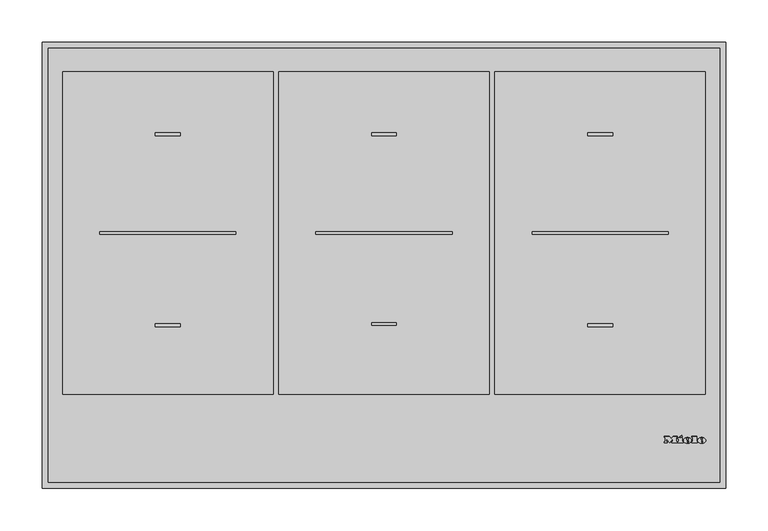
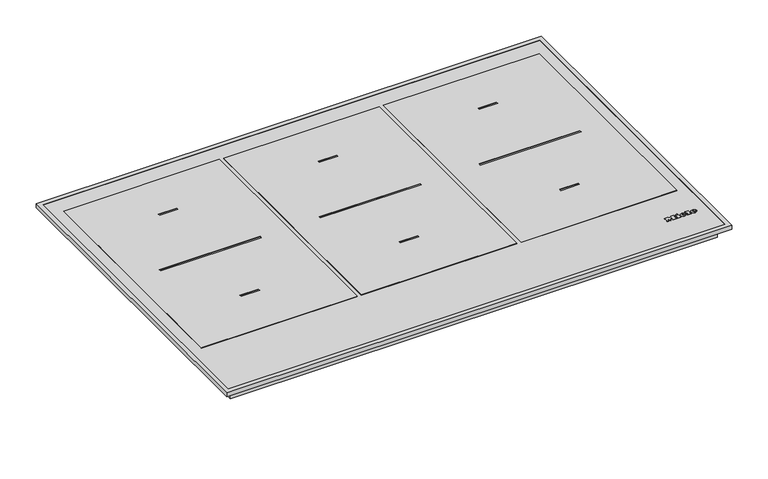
"""IFC4 building model written with IfcOpenShell, lengths in millimetres: proxy geometry, 11276510_BR_KM7575FR : 26757500_BR_11276510_KM7575FR."""

from ifc_helpers import new_model, si_unit, point, frame, frame_2d, origin, place, context, project, spatial, polyline, circle_curve, ellipse_curve, trimmed, segment, composite_curve, outline, extrude, faceted_brep, source, transform, mapped, element, save
from ifc_brep_helpers import plane_surface, cylinder_surface, revolved_surface, extruded_surface, advanced_brep


def specialty_equipment_3f7b766c(model_context):
    return source(origin(), model_context, "Body", "SolidModel", [
        advanced_brep(
        [(374.06, 55.3948833, 6.4802537), (374.06, 56.2028828, 6.4811551), (379.412, 56.2028828, 6.4811551), (370.1, 56.2028828, 6.4811551), (372.3, 53.4988845, 6.4781386), (379.276, 55.3948833, 6.4802537), (376.86, 55.3948833, 6.4802537), (374.956, 54.4988838, 6.4792542), (374.06, 57.2268821, 6.4822974), (374.06, 58.0988816, 6.4832701), (375.428, 58.0988816, 6.4832701), (375.428, 57.2268821, 6.4822974), (374.06, 55.3959988, 5.4802543), (374.956, 54.4999994, 5.4792548), (376.86, 55.3959988, 5.4802543), (379.276, 55.3959988, 5.4802543), (372.3, 53.5, 5.4781393), (370.1, 56.2039983, 5.4811557), (379.412, 56.2039983, 5.4811557), (374.06, 56.2039983, 5.4811557), (374.06, 57.2279977, 5.482298), (375.428, 57.2279977, 5.482298), (375.428, 58.0999971, 5.4832707), (374.06, 58.0999971, 5.4832707)],
        [
            (0, 1),
            (1, 2),
            (2, 3, ellipse_curve(frame((374.756, 56.2028828, 6.4811551), z_axis=(0.0, -0.0011155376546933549, 0.9999993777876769), x_axis=(-1.0, 0.0, 0.0)), 4.656, 3.848)),
            (3, 4, circle_curve(frame((373.1960436, 56.4748826, 6.4814585), z_axis=(0.0, -0.0011155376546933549, 0.9999993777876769), x_axis=(0.0, -0.9999993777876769, -0.0011155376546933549)), 3.1079688)),
            (4, 5, circle_curve(frame((374.6627936, 58.5868813, 6.4838145), z_axis=(0.0, -0.0011155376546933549, 0.9999993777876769), x_axis=(0.0, -0.9999993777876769, -0.0011155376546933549)), 5.6098607)),
            (5, 6),
            (6, 7, circle_curve(frame((375.3470588, 56.1388828, 6.4810837), z_axis=(0.0, 0.0011155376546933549, -0.9999993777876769), x_axis=(0.0, -0.9999993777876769, -0.0011155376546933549)), 1.6859795)),
            (7, 0, circle_curve(frame((374.956, 55.3948833, 6.4802537), z_axis=(0.0, 0.0011155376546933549, -0.9999993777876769), x_axis=(0.0, -0.9999993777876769, -0.0011155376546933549)), 0.896)),
            (8, 9),
            (9, 10, circle_curve(frame((374.744, 58.0988816, 6.4832701), z_axis=(0.0, 0.0011155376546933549, -0.9999993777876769), x_axis=(0.0, -0.9999993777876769, -0.0011155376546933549)), 0.684)),
            (10, 11),
            (11, 8),
            (12, 13, circle_curve(frame((374.956, 55.3959988, 5.4802543), z_axis=(0.0, -0.0011155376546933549, 0.9999993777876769), x_axis=(0.0, -0.9999993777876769, -0.0011155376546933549)), 0.896)),
            (13, 14, circle_curve(frame((375.3470588, 56.1399984, 5.4810843), z_axis=(0.0, -0.0011155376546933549, 0.9999993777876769), x_axis=(0.0, -0.9999993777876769, -0.0011155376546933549)), 1.6859795)),
            (14, 15),
            (15, 16, circle_curve(frame((374.6627936, 58.5879968, 5.4838151), z_axis=(0.0, 0.0011155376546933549, -0.9999993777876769), x_axis=(0.0, -0.9999993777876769, -0.0011155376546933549)), 5.6098607)),
            (16, 17, circle_curve(frame((373.1960436, 56.4759981, 5.4814591), z_axis=(0.0, 0.0011155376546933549, -0.9999993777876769), x_axis=(0.0, -0.9999993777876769, -0.0011155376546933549)), 3.1079688)),
            (17, 18, ellipse_curve(frame((374.756, 56.2039983, 5.4811557), z_axis=(0.0, 0.0011155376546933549, -0.9999993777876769), x_axis=(-1.0, 0.0, 0.0)), 4.656, 3.848)),
            (18, 19),
            (19, 12),
            (20, 21),
            (21, 22),
            (22, 23, circle_curve(frame((374.744, 58.0999971, 5.4832707), z_axis=(0.0, -0.0011155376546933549, 0.9999993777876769), x_axis=(0.0, -0.9999993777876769, -0.0011155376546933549)), 0.684)),
            (23, 20),
            (0, 12),
            (19, 1),
            (18, 2),
            (5, 15),
            (14, 6),
            (17, 3),
            (13, 7),
            (16, 4),
            (8, 20),
            (23, 9),
            (22, 10),
            (21, 11),
        ],
        [
            plane_surface(frame((374.06, 56.2028828, 6.4811551), z_axis=(0.0, -0.0011155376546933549, 0.9999993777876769), x_axis=(0.0, 0.9999993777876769, 0.0011155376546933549))),
            plane_surface(frame((374.06, 56.2039983, 5.4811557), z_axis=(0.0, 0.0011155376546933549, -0.9999993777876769), x_axis=(0.0, -0.9999993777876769, -0.0011155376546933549))),
            plane_surface(frame((374.06, 55.3948833, 6.4802537), z_axis=(1.0000000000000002, 0.0, 0.0), x_axis=(0.0, 0.001115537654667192, -0.999999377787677))),
            plane_surface(frame((374.06, 56.2028828, 6.4811551), z_axis=(0.0, -0.999999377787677, -0.001115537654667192), x_axis=(0.0, 0.001115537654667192, -0.999999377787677))),
            plane_surface(frame((379.276, 55.3948833, 6.4802537), z_axis=(0.0, 0.999999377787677, 0.001115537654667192), x_axis=(0.0, 0.001115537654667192, -0.999999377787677))),
            extruded_surface(trimmed(ellipse_curve(frame((374.756, 56.2051139, 4.4811563), z_axis=(0.0, -0.0011155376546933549, 0.9999993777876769), x_axis=(-1.0, 0.0, 0.0)), 4.656, 3.848), [point((379.412, 56.2051139, 4.4811563))], [point((370.1, 56.2051139, 4.4811563))], True, "CARTESIAN"), (0.0, -0.001115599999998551, 0.9999994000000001), 1.00000002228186),
            revolved_surface(polyline([(375.3470588, 54.454019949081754, 5.479203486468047), (375.3470588, 54.45290441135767, 6.4792029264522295)]), (375.3470588, 56.1399984, 5.4810843), (0.0, 0.0011155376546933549, -0.9999993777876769)),
            revolved_surface(polyline([(374.956, 54.49999935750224, 5.479254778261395), (374.956, 54.49888381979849, 6.479254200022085)]), (374.956, 55.3959988, 5.4802543), (0.0, 0.0011155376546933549, -0.9999993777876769)),
            cylinder_surface(frame((373.1960436, 56.4759981, 5.4814591), z_axis=(0.0, -0.0011155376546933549, 0.9999993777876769), x_axis=(0.0, -0.9999993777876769, -0.0011155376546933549)), 3.1079688),
            cylinder_surface(frame((374.6627936, 58.5879968, 5.4838151), z_axis=(0.0, -0.0011155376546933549, 0.9999993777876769), x_axis=(0.0, -0.9999993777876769, -0.0011155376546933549)), 5.6098607),
            plane_surface(frame((374.06, 57.2268821, 6.4822974), z_axis=(1.0000000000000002, 0.0, 0.0), x_axis=(0.0, 0.001115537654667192, -0.999999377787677))),
            revolved_surface(polyline([(374.744, 57.415997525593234, 5.48250767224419), (374.744, 57.41488198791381, 6.482507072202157)]), (374.744, 58.0999971, 5.4832707), (0.0, 0.0011155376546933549, -0.9999993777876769)),
            plane_surface(frame((375.428, 58.0988816, 6.4832701), z_axis=(-1.0000000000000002, 0.0, 0.0), x_axis=(0.0, 0.001115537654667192, -0.999999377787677))),
            plane_surface(frame((375.428, 57.2268821, 6.4822974), z_axis=(0.0, 0.999999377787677, 0.001115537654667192), x_axis=(0.0, 0.001115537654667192, -0.999999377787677))),
        ],
        [
            (0, [[1, 2, 3, 4, 5, 6, 7, 8], [9, 10, 11, 12]]),
            (1, [[13, 14, 15, 16, 17, 18, 19, 20], [21, 22, 23, 24]]),
            (2, [[-1, 25, -20, 26]]),
            (3, [[-2, -26, -19, 27]]),
            (4, [[-6, 28, -15, 29]]),
            (5, [[-3, -27, -18, 30]]),
            (6, [[-7, -29, -14, 31]]),
            (7, [[-8, -31, -13, -25]]),
            (8, [[-4, -30, -17, 32]]),
            (9, [[-5, -32, -16, -28]]),
            (10, [[-9, 33, -24, 34]]),
            (11, [[-10, -34, -23, 35]]),
            (12, [[-11, -35, -22, 36]]),
            (13, [[-12, -36, -21, -33]]),
        ],
    ),
        advanced_brep(
        [(357.364, 55.3948833, 6.4802537), (357.364, 56.2028828, 6.4811551), (362.716, 56.2028828, 6.4811551), (353.404, 56.2028828, 6.4811551), (355.604, 53.4988845, 6.4781386), (362.58, 55.3948833, 6.4802537), (360.164, 55.3948833, 6.4802537), (358.26, 54.4988838, 6.4792542), (357.364, 57.2268821, 6.4822974), (357.364, 58.0988816, 6.4832701), (358.732, 58.0988816, 6.4832701), (358.732, 57.2268821, 6.4822974), (357.364, 55.3959988, 5.4802543), (358.26, 54.4999994, 5.4792548), (360.164, 55.3959988, 5.4802543), (362.58, 55.3959988, 5.4802543), (355.604, 53.5, 5.4781393), (353.404, 56.2039983, 5.4811557), (362.716, 56.2039983, 5.4811557), (357.364, 56.2039983, 5.4811557), (357.364, 57.2279977, 5.482298), (358.732, 57.2279977, 5.482298), (358.732, 58.0999971, 5.4832707), (357.364, 58.0999971, 5.4832707)],
        [
            (0, 1),
            (1, 2),
            (2, 3, ellipse_curve(frame((358.06, 56.2028828, 6.4811551), z_axis=(0.0, -0.0011155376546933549, 0.9999993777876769), x_axis=(-1.0, 0.0, 0.0)), 4.656, 3.848)),
            (3, 4, circle_curve(frame((356.5000436, 56.4748826, 6.4814585), z_axis=(0.0, -0.0011155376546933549, 0.9999993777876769), x_axis=(0.0, -0.9999993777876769, -0.0011155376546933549)), 3.1079688)),
            (4, 5, circle_curve(frame((357.9667936, 58.5868813, 6.4838145), z_axis=(0.0, -0.0011155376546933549, 0.9999993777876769), x_axis=(0.0, -0.9999993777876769, -0.0011155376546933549)), 5.6098607)),
            (5, 6),
            (6, 7, circle_curve(frame((358.6510588, 56.1388828, 6.4810837), z_axis=(0.0, 0.0011155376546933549, -0.9999993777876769), x_axis=(0.0, -0.9999993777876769, -0.0011155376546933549)), 1.6859795)),
            (7, 0, circle_curve(frame((358.26, 55.3948833, 6.4802537), z_axis=(0.0, 0.0011155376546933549, -0.9999993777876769), x_axis=(0.0, -0.9999993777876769, -0.0011155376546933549)), 0.896)),
            (8, 9),
            (9, 10, circle_curve(frame((358.048, 58.0988816, 6.4832701), z_axis=(0.0, 0.0011155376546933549, -0.9999993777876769), x_axis=(0.0, -0.9999993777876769, -0.0011155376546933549)), 0.684)),
            (10, 11),
            (11, 8),
            (12, 13, circle_curve(frame((358.26, 55.3959988, 5.4802543), z_axis=(0.0, -0.0011155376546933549, 0.9999993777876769), x_axis=(0.0, -0.9999993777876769, -0.0011155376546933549)), 0.896)),
            (13, 14, circle_curve(frame((358.6510588, 56.1399984, 5.4810843), z_axis=(0.0, -0.0011155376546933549, 0.9999993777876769), x_axis=(0.0, -0.9999993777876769, -0.0011155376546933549)), 1.6859795)),
            (14, 15),
            (15, 16, circle_curve(frame((357.9667936, 58.5879968, 5.4838151), z_axis=(0.0, 0.0011155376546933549, -0.9999993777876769), x_axis=(0.0, -0.9999993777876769, -0.0011155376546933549)), 5.6098607)),
            (16, 17, circle_curve(frame((356.5000436, 56.4759981, 5.4814591), z_axis=(0.0, 0.0011155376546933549, -0.9999993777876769), x_axis=(0.0, -0.9999993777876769, -0.0011155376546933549)), 3.1079688)),
            (17, 18, ellipse_curve(frame((358.06, 56.2039983, 5.4811557), z_axis=(0.0, 0.0011155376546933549, -0.9999993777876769), x_axis=(-1.0, 0.0, 0.0)), 4.656, 3.848)),
            (18, 19),
            (19, 12),
            (20, 21),
            (21, 22),
            (22, 23, circle_curve(frame((358.048, 58.0999971, 5.4832707), z_axis=(0.0, -0.0011155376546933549, 0.9999993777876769), x_axis=(0.0, -0.9999993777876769, -0.0011155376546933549)), 0.684)),
            (23, 20),
            (0, 12),
            (19, 1),
            (18, 2),
            (5, 15),
            (14, 6),
            (17, 3),
            (13, 7),
            (16, 4),
            (8, 20),
            (23, 9),
            (22, 10),
            (21, 11),
        ],
        [
            plane_surface(frame((357.364, 56.2028828, 6.4811551), z_axis=(0.0, -0.0011155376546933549, 0.9999993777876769), x_axis=(0.0, 0.9999993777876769, 0.0011155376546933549))),
            plane_surface(frame((357.364, 56.2039983, 5.4811557), z_axis=(0.0, 0.0011155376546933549, -0.9999993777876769), x_axis=(0.0, -0.9999993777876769, -0.0011155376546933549))),
            plane_surface(frame((357.364, 55.3948833, 6.4802537), z_axis=(1.0000000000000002, 0.0, 0.0), x_axis=(0.0, 0.001115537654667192, -0.999999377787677))),
            plane_surface(frame((357.364, 56.2028828, 6.4811551), z_axis=(0.0, -0.999999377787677, -0.001115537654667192), x_axis=(0.0, 0.001115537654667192, -0.999999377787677))),
            plane_surface(frame((362.58, 55.3948833, 6.4802537), z_axis=(0.0, 0.999999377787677, 0.001115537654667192), x_axis=(0.0, 0.001115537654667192, -0.999999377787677))),
            extruded_surface(trimmed(ellipse_curve(frame((358.06, 56.2051139, 4.4811563), z_axis=(0.0, -0.0011155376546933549, 0.9999993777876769), x_axis=(-1.0, 0.0, 0.0)), 4.656, 3.848), [point((362.716, 56.2051139, 4.4811563))], [point((353.404, 56.2051139, 4.4811563))], True, "CARTESIAN"), (0.0, -0.001115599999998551, 0.9999994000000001), 1.00000002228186),
            revolved_surface(polyline([(358.6510588, 54.454019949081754, 5.479203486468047), (358.6510588, 54.45290441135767, 6.4792029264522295)]), (358.6510588, 56.1399984, 5.4810843), (0.0, 0.0011155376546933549, -0.9999993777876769)),
            revolved_surface(polyline([(358.26, 54.49999935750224, 5.479254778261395), (358.26, 54.49888381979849, 6.479254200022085)]), (358.26, 55.3959988, 5.4802543), (0.0, 0.0011155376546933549, -0.9999993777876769)),
            cylinder_surface(frame((356.5000436, 56.4759981, 5.4814591), z_axis=(0.0, -0.0011155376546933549, 0.9999993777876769), x_axis=(0.0, -0.9999993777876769, -0.0011155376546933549)), 3.1079688),
            cylinder_surface(frame((357.9667936, 58.5879968, 5.4838151), z_axis=(0.0, -0.0011155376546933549, 0.9999993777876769), x_axis=(0.0, -0.9999993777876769, -0.0011155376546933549)), 5.6098607),
            plane_surface(frame((357.364, 57.2268821, 6.4822974), z_axis=(1.0000000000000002, 0.0, 0.0), x_axis=(0.0, 0.001115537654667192, -0.999999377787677))),
            revolved_surface(polyline([(358.048, 57.415997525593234, 5.48250767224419), (358.048, 57.41488198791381, 6.482507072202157)]), (358.048, 58.0999971, 5.4832707), (0.0, 0.0011155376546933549, -0.9999993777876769)),
            plane_surface(frame((358.732, 58.0988816, 6.4832701), z_axis=(-1.0000000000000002, 0.0, 0.0), x_axis=(0.0, 0.001115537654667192, -0.999999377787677))),
            plane_surface(frame((358.732, 57.2268821, 6.4822974), z_axis=(0.0, 0.999999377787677, 0.001115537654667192), x_axis=(0.0, 0.001115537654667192, -0.999999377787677))),
        ],
        [
            (0, [[1, 2, 3, 4, 5, 6, 7, 8], [9, 10, 11, 12]]),
            (1, [[13, 14, 15, 16, 17, 18, 19, 20], [21, 22, 23, 24]]),
            (2, [[-1, 25, -20, 26]]),
            (3, [[-2, -26, -19, 27]]),
            (4, [[-6, 28, -15, 29]]),
            (5, [[-3, -27, -18, 30]]),
            (6, [[-7, -29, -14, 31]]),
            (7, [[-8, -31, -13, -25]]),
            (8, [[-4, -30, -17, 32]]),
            (9, [[-5, -32, -16, -28]]),
            (10, [[-9, 33, -24, 34]]),
            (11, [[-10, -34, -23, 35]]),
            (12, [[-11, -35, -22, 36]]),
            (13, [[-12, -36, -21, -33]]),
        ],
    ),
        extrude(outline(polyline([(0.0, 0.0), (-0.0109086, -2.9993294), (-1.4390415, -2.9920868), (-1.4315307, 0.0), (0.0, 0.0)])), frame((348.62, 61.0279953, 5.486537), z_axis=(0.0, -0.001115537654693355, 0.999999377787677), x_axis=(-0.4247202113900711, 0.9053240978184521, 0.0010099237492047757)), (0.0, 0.0, 1.0), 1.0),
        extrude(outline(polyline([(-0.4933908, 2.4141097), (-2.7800844, -2.4601583), (-7.0459741, -0.4588767), (-7.4401145, -1.299018), (-8.6568709, -0.728194), (-5.9760369, 4.9862153), (-4.7592805, 4.4153913), (-5.1636142, 3.5535222), (-2.1941493, 2.1604399), (-1.7898157, 3.022309), (-0.4933908, 2.4141097)])), frame((348.62, 61.0279953, 5.486537), z_axis=(0.0, -0.001115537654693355, 0.999999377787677), x_axis=(-0.4247202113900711, 0.9053240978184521, 0.0010099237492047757)), (0.0, 0.0, 1.0), 1.0),
        extrude(outline(polyline([(0.0, 0.0), (0.0, -1.304), (-5.504, -1.304), (-5.504, 5.3519999), (-6.488, 5.3519999), (-6.488, 6.696), (0.0, 6.696), (0.0, 5.3519999), (-0.96, 5.3519999), (-0.96, 0.0), (0.0, 0.0)])), frame((363.164, 60.1959958, 5.4856089), z_axis=(0.0, -0.0011155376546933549, 0.9999993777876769), x_axis=(-1.0, 0.0, 0.0)), (0.0, 0.0, 1.0), 1.0),
        extrude(outline(polyline([(0.0, 0.0), (0.0, -1.304), (-5.576, -1.304), (-7.92, 1.696), (-10.256, -1.304), (-15.128, -1.304), (-15.128, 0.0), (-14.112, 0.0), (-14.112, 5.3519999), (-15.128, 5.3519999), (-15.128, 6.696), (-8.744, 6.696), (-8.744, 5.3519999), (-9.728, 5.3519999), (-9.728, 1.8807777), (-6.136, 6.696), (-2.56, 1.9488752), (-2.56, 5.3519999), (-3.52, 5.3519999), (-3.52, 6.696), (0.0, 6.696), (0.0, 5.3519999), (-0.968, 5.3519999), (-0.968, 0.0), (0.0, 0.0)])), frame((330.7, 60.1959958, 5.4856089), z_axis=(0.0, -0.0011155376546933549, 0.9999993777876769), x_axis=(-1.0, 0.0, 0.0)), (0.0, 0.0, 1.0), 1.0),
        extrude(outline(polyline([(400.0, 520.0), (400.0, 1.0), (-400.0, 1.0), (-400.0, 520.0), (400.0, 520.0)])), frame((0.0, 0.0, 2.0), z_axis=(0.0, 0.0, 1.0), x_axis=(1.0, 0.0, 0.0)), (0.0, 0.0, 1.0), 4.0),
        extrude(outline(polyline([(388.5, 511.5), (388.5, 14.5), (-388.5, 14.5), (-388.5, 511.5), (388.5, 511.5)])), frame((0.0, 0.0, -16.8), z_axis=(0.0, 0.0, 1.0), x_axis=(1.0, 0.0, 0.0)), (0.0, 0.0, 1.0), 18.8),
        extrude(outline(polyline([(-103.0, 475.3), (-103.0, 104.3), (-331.0, 104.3), (-331.0, 475.3), (-103.0, 475.3)])), frame((0.0, 0.0, -46.5), z_axis=(0.0, 0.0, 1.0), x_axis=(1.0, 0.0, 0.0)), (0.0, 0.0, 1.0), 29.7),
        extrude(outline(polyline([(-82.8, 341.7), (-104.2, 341.7), (-104.2, 425.1), (-82.8, 425.1), (-82.8, 475.3), (323.2, 475.3), (323.2, 104.3), (-82.8, 104.3), (-82.8, 341.7)])), frame((0.0, 0.0, -46.5), z_axis=(0.0, 0.0, 1.0), x_axis=(1.0, 0.0, 0.0)), (0.0, 0.0, 1.0), 29.7),
        faceted_brep([(396.0, 519.0, 7.0), (396.0, 519.0, 6.0), (396.0, 7.0, 6.0), (396.0, 7.0, 7.0), (403.0, 526.0, 0.0), (403.0, 526.0, 7.0), (403.0, 0.0, 7.0), (403.0, 0.0, 0.0), (402.0, 525.0, 6.0), (402.0, 525.0, 0.0), (402.0, 1.0, 0.0), (402.0, 1.0, 6.0), (-396.0, 7.0, 6.0), (-396.0, 7.0, 7.0), (-403.0, 0.0, 7.0), (-403.0, 0.0, 0.0), (-402.0, 1.0, 0.0), (-402.0, 1.0, 6.0), (-396.0, 519.0, 6.0), (-396.0, 519.0, 7.0), (-403.0, 526.0, 7.0), (-403.0, 526.0, 0.0), (-402.0, 525.0, 0.0), (-402.0, 525.0, 6.0)], [[[0, 1, 2, 3]], [[4, 5, 6, 7]], [[8, 9, 10, 11]], [[3, 2, 12, 13]], [[7, 6, 14, 15]], [[11, 10, 16, 17]], [[13, 12, 18, 19]], [[15, 14, 20, 21]], [[17, 16, 22, 23]], [[19, 18, 1, 0]], [[5, 20, 14, 6], [3, 13, 19, 0]], [[21, 20, 5, 4]], [[7, 15, 21, 4], [9, 22, 16, 10]], [[23, 22, 9, 8]], [[11, 17, 23, 8], [1, 18, 12, 2]]]),
        extrude(outline(polyline([(261.2772603, 438.5), (253.9, 438.5), (253.9, 439.7557039), (260.0215564, 439.7557039), (260.0215564, 443.0519266), (254.370889, 443.0519266), (254.370889, 444.3076304), (260.0215564, 444.3076304), (260.0215564, 447.2899271), (254.056963, 447.2899271), (254.056963, 448.545631), (261.2772603, 448.545631), (261.2772603, 438.5)])), frame((0.0, 0.0, -77.5), z_axis=(0.0, 0.0, 1.0), x_axis=(1.0, 0.0, 0.0)), (0.0, 0.0, 1.0), 1.0),
        extrude(outline(polyline([(252.0164442, 438.5), (245.7379248, 438.5), (245.7379248, 439.7557039), (250.7607403, 439.7557039), (250.7607403, 448.545631), (252.0164442, 448.545631), (252.0164442, 438.5)])), frame((0.0, 0.0, -77.5), z_axis=(0.0, 0.0, 1.0), x_axis=(1.0, 0.0, 0.0)), (0.0, 0.0, 1.0), 1.0),
        extrude(outline(composite_curve([segment(trimmed(circle_curve(frame_2d((253.9, 443.5)), 7.5), [point((253.9, 451.0))], [point((253.9, 436.0))], False, "CARTESIAN"), True, "CONTINUOUS"), segment(trimmed(circle_curve(frame_2d((253.9, 443.5)), 7.5), [point((253.9, 436.0))], [point((253.9, 451.0))], False, "CARTESIAN"), True, "CONTINUOUS")], self_intersect=False)), frame((0.0, 0.0, -76.5), z_axis=(0.0, 0.0, 1.0), x_axis=(1.0, 0.0, 0.0)), (0.0, 0.0, 1.0), 30.0),
        extrude(outline(polyline([(379.25, 491.25), (379.25, 110.75), (130.75, 110.75), (130.75, 491.25), (379.25, 491.25)]), holes=[polyline([(335.3, 302.6), (174.7, 302.6), (174.7, 299.4), (335.3, 299.4), (335.3, 302.6)]), polyline([(269.65, 419.35), (240.35, 419.35), (240.35, 416.15), (269.65, 416.15), (269.65, 419.35)]), polyline([(269.65, 193.85), (240.35, 193.85), (240.35, 190.65), (269.65, 190.65), (269.65, 193.85)])]), frame((0.0, 0.0, 6.0), z_axis=(0.0, 0.0, 1.0), x_axis=(1.0, 0.0, 0.0)), (0.0, 0.0, 1.0), 1.0),
        extrude(outline(polyline([(124.25, 491.25), (124.25, 110.75), (-124.25, 110.75), (-124.25, 491.25), (124.25, 491.25)]), holes=[polyline([(-80.3, 302.6), (-80.3, 299.4), (80.3, 299.4), (80.3, 302.6), (-80.3, 302.6)]), polyline([(14.65, 419.35), (-14.65, 419.35), (-14.65, 416.15), (14.65, 416.15), (14.65, 419.35)]), polyline([(14.65, 195.45), (-14.65, 195.45), (-14.65, 192.25), (14.65, 192.25), (14.65, 195.45)])]), frame((0.0, 0.0, 6.0), z_axis=(0.0, 0.0, 1.0), x_axis=(1.0, 0.0, 0.0)), (0.0, 0.0, 1.0), 1.0),
        extrude(outline(polyline([(-130.75, 491.25), (-130.75, 110.75), (-379.25, 110.75), (-379.25, 491.25), (-130.75, 491.25)]), holes=[polyline([(-174.7, 302.6), (-335.3, 302.6), (-335.3, 299.4), (-174.7, 299.4), (-174.7, 302.6)]), polyline([(-240.35, 419.35), (-269.65, 419.35), (-269.65, 416.15), (-240.35, 416.15), (-240.35, 419.35)]), polyline([(-240.35, 193.85), (-269.65, 193.85), (-269.65, 190.65), (-240.35, 190.65), (-240.35, 193.85)])]), frame((0.0, 0.0, 6.0), z_axis=(0.0, 0.0, 1.0), x_axis=(1.0, 0.0, 0.0)), (0.0, 0.0, 1.0), 1.0),
        extrude(outline(composite_curve([segment(trimmed(circle_curve(frame_2d((-381.0, 83.0)), 3.0), [point((-381.0, 86.0))], [point((-381.0, 80.0))], False, "CARTESIAN"), True, "CONTINUOUS"), segment(trimmed(circle_curve(frame_2d((-381.0, 83.0)), 3.0), [point((-381.0, 80.0))], [point((-381.0, 86.0))], False, "CARTESIAN"), True, "CONTINUOUS")], self_intersect=False)), frame((0.0, 0.0, -22.0), z_axis=(0.0, 0.0, 1.0), x_axis=(1.0, 0.0, 0.0)), (0.0, 0.0, 1.0), 5.2),
        extrude(outline(composite_curve([segment(trimmed(circle_curve(frame_2d((381.0, 443.0)), 3.0), [point((381.0, 446.0))], [point((381.0, 440.0))], False, "CARTESIAN"), True, "CONTINUOUS"), segment(trimmed(circle_curve(frame_2d((381.0, 443.0)), 3.0), [point((381.0, 440.0))], [point((381.0, 446.0))], False, "CARTESIAN"), True, "CONTINUOUS")], self_intersect=False)), frame((0.0, 0.0, -22.0), z_axis=(0.0, 0.0, 1.0), x_axis=(1.0, 0.0, 0.0)), (0.0, 0.0, 1.0), 5.2),
    ])


if __name__ == "__main__":
    model = new_model("IFC4")
    model_context = context("Model", 3, world=origin())
    ifc_project = project(units=[si_unit("LENGTHUNIT", "METRE", prefix="MILLI")], contexts=[model_context])
    site = spatial("IfcSite", under=ifc_project)
    building = spatial("IfcBuilding", under=site)
    placement = place(None, origin())
    specialty_equipment_shape = specialty_equipment_3f7b766c(model_context)
    element("IfcBuildingElementProxy", 1, Name="11276510_BR_KM7575FR : 26757500_BR_11276510_KM7575FR", ObjectType="11276510_BR_KM7575FR : 26757500_BR_11276510_KM7575FR", at=placement, inside=building, context=model_context, shape_type="MappedRepresentation", body=[
        mapped(specialty_equipment_shape, transform((0.0, 0.0, 0.0), x_axis=(1.0, 0.0, 0.0), y_axis=(0.0, 1.0, 0.0), z_axis=(0.0, 0.0, 1.0))),
    ])
    save(model, "model.ifc")
